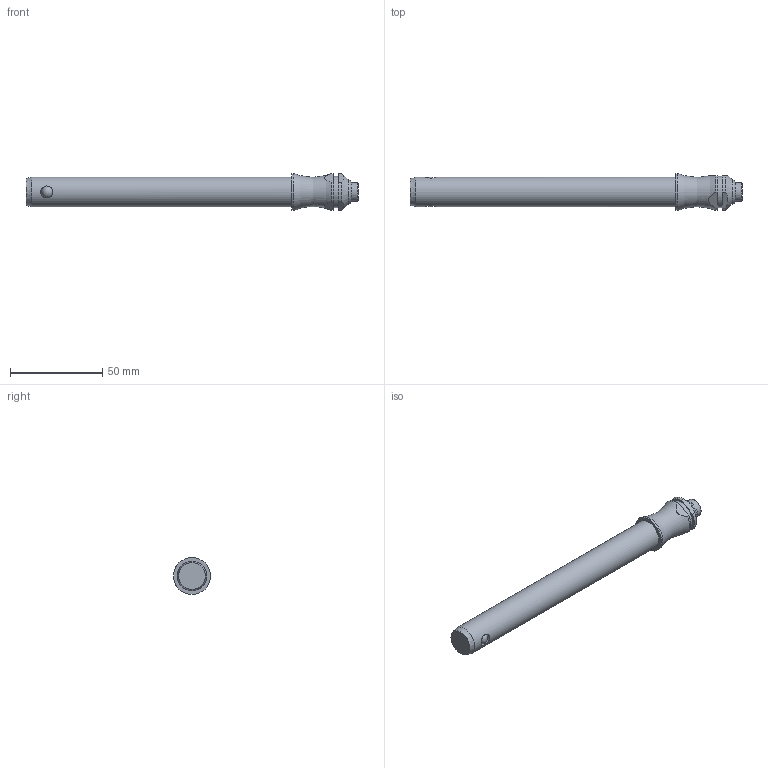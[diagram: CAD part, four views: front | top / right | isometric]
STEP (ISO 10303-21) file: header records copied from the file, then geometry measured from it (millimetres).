
FILE_DESCRIPTION( ( 'STEP AP203' ), '1' );
FILE_NAME( 'C:/Temp/Ganter_Step_05_03_2020/data/3_1/gn113_3/Stainless Steel-Ball lock pin GN 113.3-16-130 (activated).stp', '2020-03-12T08:19:00', ( 'License CC BY-ND 4.0' ), ( 'CADENAS' ), ' ', 'PARTsolutions', ' ' );
FILE_SCHEMA( ( 'CONFIG_CONTROL_DESIGN' ) );
Length unit declared in the file: millimetre
Products named in the file (1): _Stainless Steel-Ball lock pin GN 113.3-16-130 (activated)
Bounding box: 179.75 x 20 x 20 mm (x, y, z)
Volume: 36501.4 mm3; surface area: 9845 mm2
Topology: 1 solids, 1 shells, 30 faces, 68 edges, 43 vertices
Faces by surface type: cylinder 12, plane 11, cone 3, torus 2, sphere 2
Full cylindrical faces by diameter (mm): 6.5 x2, 10 x1, 16 x1, 17 x1, 20 x1
Entity records: 1014 total; most frequent: CARTESIAN_POINT 364, DIRECTION 130, ORIENTED_EDGE 102, AXIS2_PLACEMENT_3D 56, EDGE_CURVE 51, EDGE_LOOP 46, VERTEX_POINT 40, FACE_OUTER_BOUND 38
